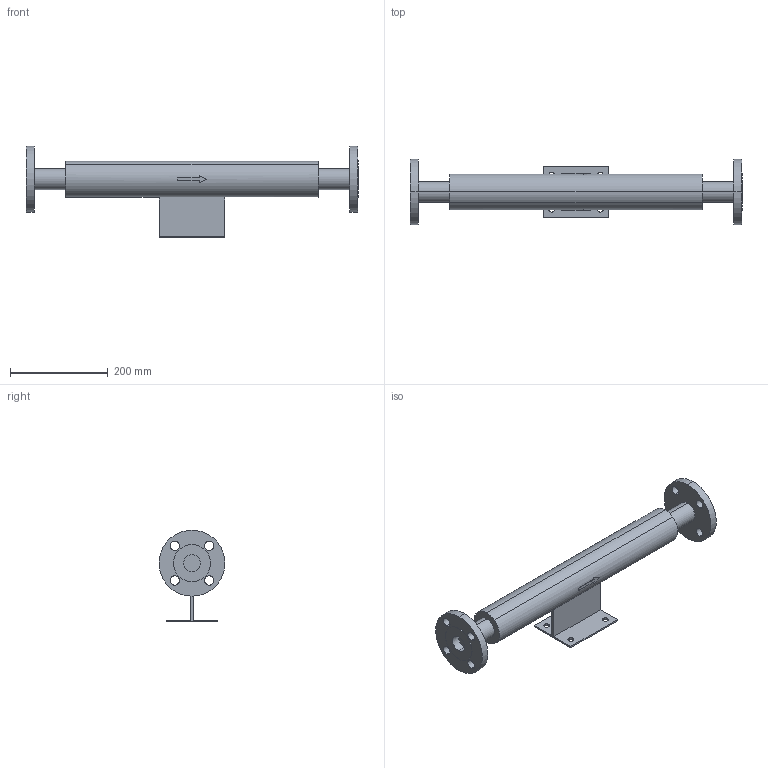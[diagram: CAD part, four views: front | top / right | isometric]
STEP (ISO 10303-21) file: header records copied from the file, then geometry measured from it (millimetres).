
FILE_DESCRIPTION( (''), '2;1');
FILE_NAME ('PC1027.10420.EB-2J　32A_2232.stp','2025-07-29T14:15:12',(''),(''),'spGate 20.6.3 (****-****-****-****)','','');
FILE_SCHEMA (('AUTOMOTIVE_DESIGN'));
Length unit declared in the file: millimetre
Bounding box: 680 x 135 x 187.5 mm (x, y, z)
Volume: 2873180.6 mm3; surface area: 267776.8 mm2
Topology: 1 solids, 1 shells, 77 faces, 194 edges, 130 vertices
Faces by surface type: cylinder 42, plane 35
Entity records: 3921 total; most frequent: CARTESIAN_POINT 451, DIRECTION 396, ORIENTED_EDGE 388, COLOUR_RGB 272, PRESENTATION_STYLE_ASSIGNMENT 272, STYLED_ITEM 272, EDGE_CURVE 194, DRAUGHTING_PRE_DEFINED_CURVE_FONT 194
